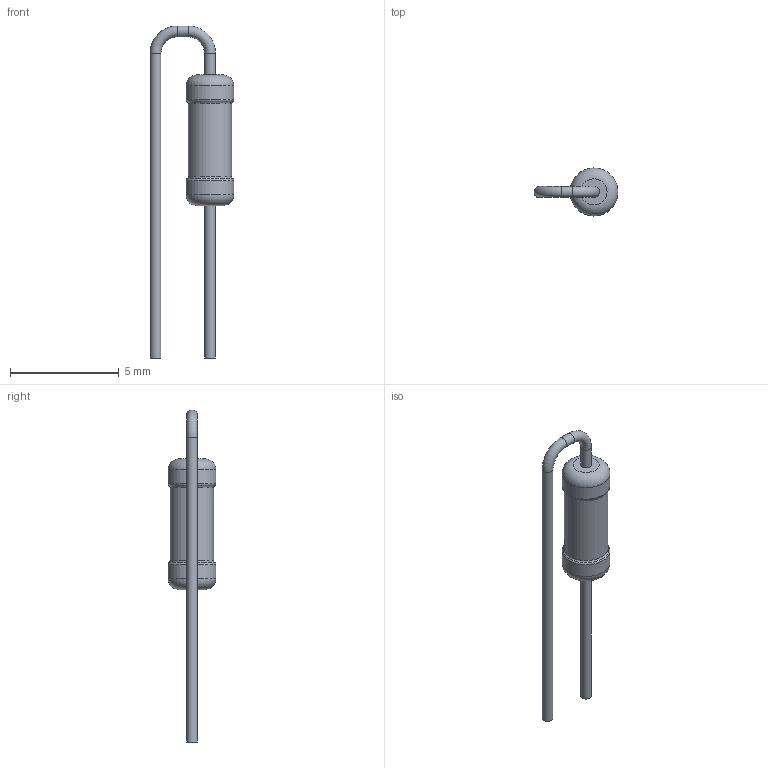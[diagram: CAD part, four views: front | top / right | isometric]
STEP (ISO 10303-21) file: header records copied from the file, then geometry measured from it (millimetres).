
FILE_DESCRIPTION(('STEP AP203'), '1');
FILE_NAME('栖闉罻', '', ('UNSPECIFIED'), ('UNSPECIFIED'), 'ASCON STEP Converter 1.6', 'ASCON Math Kernel', '');
FILE_SCHEMA(('CONFIG_CONTROL_DESIGN'));
Length unit declared in the file: millimetre
Assembly tree (1 placements, depth 2):
  (unnamed)
    (unnamed)
Bounding box: 3.85 x 2.2 x 15.25 mm (x, y, z)
Volume: 24.8 mm3; surface area: 84.4 mm2
Topology: 1 solids, 1 shells, 19 faces, 33 edges, 18 vertices
Faces by surface type: torus 8, cylinder 7, plane 4
Full cylindrical faces by diameter (mm): 0.5 x4, 2 x1, 2.2 x2
Entity records: 620 total; most frequent: DIRECTION 78, CARTESIAN_POINT 57, AXIS2_PLACEMENT_3D 39, EDGE_LOOP 36, ORIENTED_EDGE 36, FACE_OUTER_BOUND 30, COLOUR_RGB 20, FILL_AREA_STYLE_COLOUR 20
